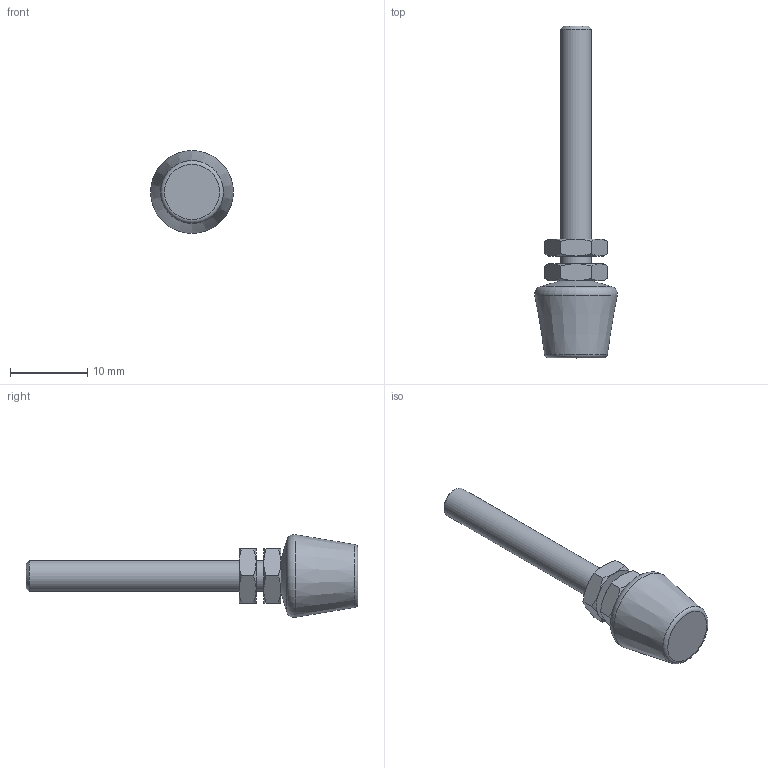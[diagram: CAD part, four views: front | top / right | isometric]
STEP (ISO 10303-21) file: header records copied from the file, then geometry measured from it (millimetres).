
FILE_DESCRIPTION( ( 'STEP AP203' ), '1' );
FILE_NAME( 'C:/Temp/Ganter_Step_05_03_2020/data/2_4/gn_708_1/gn_708_1_st/Clamping bolt GN 708.1-M4-43-A-ST (0).stp', '2020-03-13T05:51:04', ( 'License CC BY-ND 4.0' ), ( 'CADENAS' ), ' ', 'PARTsolutions', ' ' );
FILE_SCHEMA( ( 'CONFIG_CONTROL_DESIGN' ) );
Length unit declared in the file: millimetre
Products named in the file (3): Clamping bolt GN 708.1-M4-43-A-ST (0); _Andrueckschraube GN 708.1-M4-43-A-ST (0)-1; _Andrueckschraube GN 708.1-M4-43-A-ST2
Assembly tree (3 placements, depth 2):
  Clamping bolt GN 708.1-M4-43-A-ST (0)
    _Andrueckschraube GN 708.1-M4-43-A-ST (0)-1
    _Andrueckschraube GN 708.1-M4-43-A-ST2  x2
Bounding box: 10.73 x 43 x 10.73 mm (x, y, z)
Volume: 1243.7 mm3; surface area: 1088.6 mm2
Topology: 3 solids, 3 shells, 54 faces, 111 edges, 63 vertices
Faces by surface type: cone 31, plane 18, cylinder 3, torus 2
Full cylindrical faces by diameter (mm): 3.242 x2, 4 x1
Entity records: 922 total; most frequent: CARTESIAN_POINT 228, DIRECTION 122, ORIENTED_EDGE 106, AXIS2_PLACEMENT_3D 58, EDGE_CURVE 53, EDGE_LOOP 42, VERTEX_POINT 36, FACE_OUTER_BOUND 35
